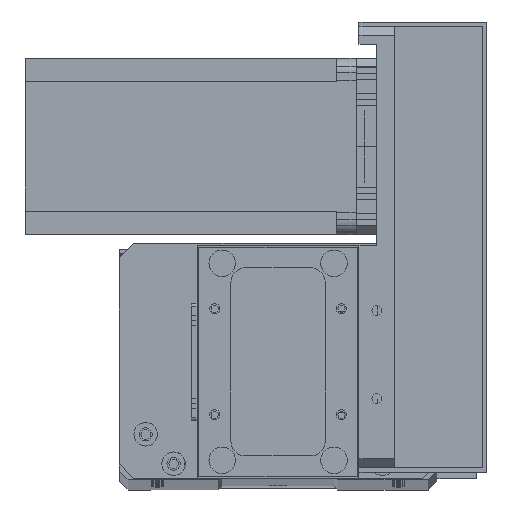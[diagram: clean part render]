
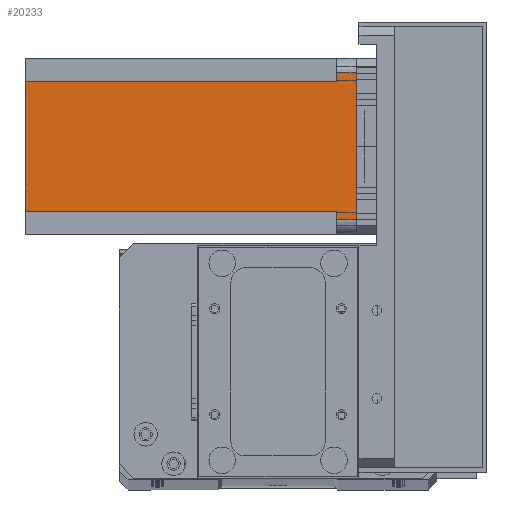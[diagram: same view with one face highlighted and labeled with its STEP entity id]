
A CAD part, top view. The second image highlights one B-rep face of the part: STEP entity #20233.
In plain terms, the highlighted planar face has unit normal (0, 0, 1) as drawn and (0, 1, 0) by its records, which use the part's own axes.
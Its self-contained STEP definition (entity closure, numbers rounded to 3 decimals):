
#333 = CARTESIAN_POINT ( 'NONE',  ( 52., 60., -112.5 ) ) ;
#1018 = VERTEX_POINT ( 'NONE', #9800 ) ;
#1381 = EDGE_CURVE ( 'NONE', #25253, #9797, #25816, .T. ) ;
#3388 = DIRECTION ( 'NONE',  ( 1., 0., 0. ) ) ;
#4002 = CARTESIAN_POINT ( 'NONE',  ( 8., 60., -112.5 ) ) ;
#4408 = LINE ( 'NONE', #24346, #23613 ) ;
#4504 = VERTEX_POINT ( 'NONE', #30752 ) ;
#4518 = CARTESIAN_POINT ( 'NONE',  ( 52., 60., -112.5 ) ) ;
#5531 = LINE ( 'NONE', #7111, #31402 ) ;
#5788 = VECTOR ( 'NONE', #22893, 1000. ) ;
#6084 = CARTESIAN_POINT ( 'NONE',  ( 55., 60., 0. ) ) ;
#6509 = DIRECTION ( 'NONE',  ( 0., 0., -1. ) ) ;
#7111 = CARTESIAN_POINT ( 'NONE',  ( 55., 60., -112.5 ) ) ;
#7269 = DIRECTION ( 'NONE',  ( 0., 0., 1. ) ) ;
#7290 = LINE ( 'NONE', #4002, #19886 ) ;
#7650 = CARTESIAN_POINT ( 'NONE',  ( 55., 60., -6.5 ) ) ;
#8246 = VECTOR ( 'NONE', #8380, 1000. ) ;
#8301 = CARTESIAN_POINT ( 'NONE',  ( 52., 60., -6.5 ) ) ;
#8380 = DIRECTION ( 'NONE',  ( 0., 0., 1. ) ) ;
#8819 = VECTOR ( 'NONE', #3388, 1000. ) ;
#9324 = EDGE_LOOP ( 'NONE', ( #10680, #29753, #16019, #27607, #23186, #30940, #11051, #14455 ) ) ;
#9797 = VERTEX_POINT ( 'NONE', #30008 ) ;
#9800 = CARTESIAN_POINT ( 'NONE',  ( 8., 60., -112.5 ) ) ;
#10680 = ORIENTED_EDGE ( 'NONE', *, *, #20786, .F. ) ;
#10709 = VECTOR ( 'NONE', #21573, 1000. ) ;
#11051 = ORIENTED_EDGE ( 'NONE', *, *, #30926, .T. ) ;
#12346 = VECTOR ( 'NONE', #26188, 1000. ) ;
#14455 = ORIENTED_EDGE ( 'NONE', *, *, #14824, .T. ) ;
#14758 = CARTESIAN_POINT ( 'NONE',  ( 0., 60., -112.5 ) ) ;
#14824 = EDGE_CURVE ( 'NONE', #24930, #24276, #27483, .T. ) ;
#15554 = LINE ( 'NONE', #8301, #8819 ) ;
#16019 = ORIENTED_EDGE ( 'NONE', *, *, #28616, .F. ) ;
#17042 = DIRECTION ( 'NONE',  ( -1., 0., 0. ) ) ;
#18099 = CARTESIAN_POINT ( 'NONE',  ( 5., 60., 0. ) ) ;
#18612 = FACE_OUTER_BOUND ( 'NONE', #9324, .T. ) ;
#19530 = EDGE_CURVE ( 'NONE', #25253, #1018, #24884, .T. ) ;
#19803 = PLANE ( 'NONE',  #30795 ) ;
#19886 = VECTOR ( 'NONE', #6509, 1000. ) ;
#20233 = ADVANCED_FACE ( 'NONE', ( #18612 ), #19803, .T. ) ;
#20786 = EDGE_CURVE ( 'NONE', #26210, #24276, #4408, .T. ) ;
#21421 = EDGE_CURVE ( 'NONE', #26210, #28449, #5531, .T. ) ;
#21573 = DIRECTION ( 'NONE',  ( -1., 0., 0. ) ) ;
#22294 = DIRECTION ( 'NONE',  ( 0., 1., 0. ) ) ;
#22455 = EDGE_CURVE ( 'NONE', #4504, #1018, #7290, .T. ) ;
#22893 = DIRECTION ( 'NONE',  ( 0., 0., 1. ) ) ;
#23186 = ORIENTED_EDGE ( 'NONE', *, *, #19530, .T. ) ;
#23412 = CARTESIAN_POINT ( 'NONE',  ( 5., 60., -112.5 ) ) ;
#23613 = VECTOR ( 'NONE', #17042, 1000. ) ;
#24050 = LINE ( 'NONE', #26515, #10709 ) ;
#24276 = VERTEX_POINT ( 'NONE', #18099 ) ;
#24346 = CARTESIAN_POINT ( 'NONE',  ( 0., 60., 0. ) ) ;
#24780 = DIRECTION ( 'NONE',  ( 0., 0., -1. ) ) ;
#24884 = LINE ( 'NONE', #29133, #12346 ) ;
#24930 = VERTEX_POINT ( 'NONE', #30720 ) ;
#25253 = VERTEX_POINT ( 'NONE', #4518 ) ;
#25816 = LINE ( 'NONE', #333, #5788 ) ;
#26188 = DIRECTION ( 'NONE',  ( -1., 0., 0. ) ) ;
#26210 = VERTEX_POINT ( 'NONE', #6084 ) ;
#26515 = CARTESIAN_POINT ( 'NONE',  ( 8., 60., -6.5 ) ) ;
#27483 = LINE ( 'NONE', #23412, #8246 ) ;
#27607 = ORIENTED_EDGE ( 'NONE', *, *, #1381, .F. ) ;
#28449 = VERTEX_POINT ( 'NONE', #7650 ) ;
#28616 = EDGE_CURVE ( 'NONE', #9797, #28449, #15554, .T. ) ;
#29133 = CARTESIAN_POINT ( 'NONE',  ( 0., 60., -112.5 ) ) ;
#29753 = ORIENTED_EDGE ( 'NONE', *, *, #21421, .T. ) ;
#30008 = CARTESIAN_POINT ( 'NONE',  ( 52., 60., -6.5 ) ) ;
#30720 = CARTESIAN_POINT ( 'NONE',  ( 5., 60., -6.5 ) ) ;
#30752 = CARTESIAN_POINT ( 'NONE',  ( 8., 60., -6.5 ) ) ;
#30795 = AXIS2_PLACEMENT_3D ( 'NONE', #14758, #22294, #7269 ) ;
#30926 = EDGE_CURVE ( 'NONE', #4504, #24930, #24050, .T. ) ;
#30940 = ORIENTED_EDGE ( 'NONE', *, *, #22455, .F. ) ;
#31402 = VECTOR ( 'NONE', #24780, 1000. ) ;
